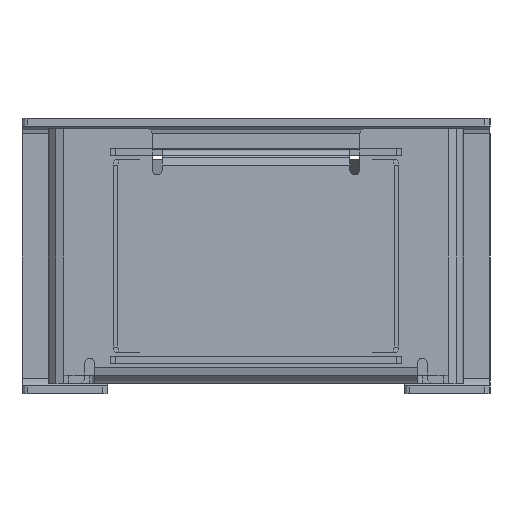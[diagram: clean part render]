
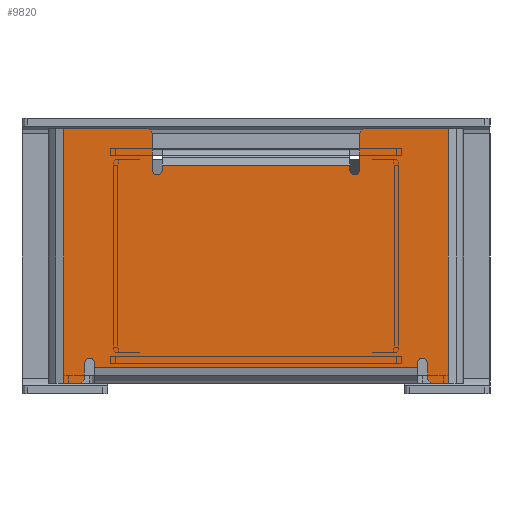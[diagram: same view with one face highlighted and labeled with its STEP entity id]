
A CAD part, front view. The second image highlights one B-rep face of the part: STEP entity #9820.
In plain terms, the highlighted planar face has unit normal (0, -1, 0).
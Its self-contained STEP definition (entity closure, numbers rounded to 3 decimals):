
#382=CIRCLE('',#10504,1.);
#391=CIRCLE('',#10516,1.);
#408=CIRCLE('',#10549,1.);
#409=CIRCLE('',#10552,1.);
#410=CIRCLE('',#10555,1.);
#411=CIRCLE('',#10558,1.);
#414=CIRCLE('',#10565,1.);
#415=CIRCLE('',#10568,1.);
#832=FACE_OUTER_BOUND('',#1420,.T.);
#1420=EDGE_LOOP('',(#6868,#6869,#6870,#6871,#6872,#6873,#6874,#6875,#6876,
#6877,#6878,#6879,#6880,#6881,#6882,#6883,#6884,#6885,#6886,#6887,#6888,
#6889,#6890,#6891));
#2110=LINE('',#14811,#3084);
#2129=LINE('',#14865,#3103);
#2169=LINE('',#14983,#3143);
#2173=LINE('',#14993,#3147);
#2177=LINE('',#15003,#3151);
#2184=LINE('',#15025,#3158);
#2186=LINE('',#15029,#3160);
#2187=LINE('',#15030,#3161);
#2188=LINE('',#15032,#3162);
#2189=LINE('',#15036,#3163);
#2190=LINE('',#15038,#3164);
#2191=LINE('',#15039,#3165);
#2192=LINE('',#15041,#3166);
#2193=LINE('',#15042,#3167);
#2194=LINE('',#15043,#3168);
#2195=LINE('',#15044,#3169);
#3084=VECTOR('',#11989,10.);
#3103=VECTOR('',#12030,10.);
#3143=VECTOR('',#12136,10.);
#3147=VECTOR('',#12146,10.);
#3151=VECTOR('',#12156,10.);
#3158=VECTOR('',#12183,10.);
#3160=VECTOR('',#12187,10.);
#3161=VECTOR('',#12188,10.);
#3162=VECTOR('',#12189,10.);
#3163=VECTOR('',#12192,10.);
#3164=VECTOR('',#12193,10.);
#3165=VECTOR('',#12194,10.);
#3166=VECTOR('',#12195,10.);
#3167=VECTOR('',#12196,10.);
#3168=VECTOR('',#12197,10.);
#3169=VECTOR('',#12198,10.);
#4003=VERTEX_POINT('',#14798);
#4004=VERTEX_POINT('',#14799);
#4008=VERTEX_POINT('',#14809);
#4030=VERTEX_POINT('',#14857);
#4031=VERTEX_POINT('',#14859);
#4032=VERTEX_POINT('',#14863);
#4075=VERTEX_POINT('',#14976);
#4076=VERTEX_POINT('',#14977);
#4077=VERTEX_POINT('',#14982);
#4078=VERTEX_POINT('',#14986);
#4079=VERTEX_POINT('',#14988);
#4080=VERTEX_POINT('',#14992);
#4081=VERTEX_POINT('',#14996);
#4082=VERTEX_POINT('',#15000);
#4083=VERTEX_POINT('',#15002);
#4084=VERTEX_POINT('',#15006);
#4087=VERTEX_POINT('',#15020);
#4088=VERTEX_POINT('',#15024);
#4089=VERTEX_POINT('',#15028);
#4090=VERTEX_POINT('',#15031);
#4091=VERTEX_POINT('',#15033);
#4092=VERTEX_POINT('',#15035);
#4093=VERTEX_POINT('',#15037);
#4094=VERTEX_POINT('',#15040);
#4983=EDGE_CURVE('',#4003,#4004,#382,.T.);
#4989=EDGE_CURVE('',#4003,#4008,#2110,.T.);
#5013=EDGE_CURVE('',#4030,#4031,#391,.T.);
#5016=EDGE_CURVE('',#4032,#4030,#2129,.T.);
#5070=EDGE_CURVE('',#4075,#4076,#408,.T.);
#5073=EDGE_CURVE('',#4077,#4076,#2169,.T.);
#5076=EDGE_CURVE('',#4078,#4079,#409,.T.);
#5078=EDGE_CURVE('',#4080,#4079,#2173,.T.);
#5080=EDGE_CURVE('',#4081,#4008,#410,.T.);
#5083=EDGE_CURVE('',#4083,#4082,#2177,.T.);
#5085=EDGE_CURVE('',#4084,#4082,#411,.T.);
#5092=EDGE_CURVE('',#4080,#4087,#414,.T.);
#5094=EDGE_CURVE('',#4087,#4088,#2184,.T.);
#5096=EDGE_CURVE('',#4078,#4089,#2186,.T.);
#5097=EDGE_CURVE('',#4089,#4077,#2187,.T.);
#5098=EDGE_CURVE('',#4075,#4090,#2188,.T.);
#5099=EDGE_CURVE('',#4091,#4090,#415,.T.);
#5100=EDGE_CURVE('',#4092,#4091,#2189,.T.);
#5101=EDGE_CURVE('',#4092,#4093,#2190,.T.);
#5102=EDGE_CURVE('',#4004,#4093,#2191,.T.);
#5103=EDGE_CURVE('',#4081,#4094,#2192,.T.);
#5104=EDGE_CURVE('',#4094,#4083,#2193,.T.);
#5105=EDGE_CURVE('',#4084,#4031,#2194,.T.);
#5106=EDGE_CURVE('',#4032,#4088,#2195,.T.);
#6868=ORIENTED_EDGE('',*,*,#5076,.F.);
#6869=ORIENTED_EDGE('',*,*,#5096,.T.);
#6870=ORIENTED_EDGE('',*,*,#5097,.T.);
#6871=ORIENTED_EDGE('',*,*,#5073,.T.);
#6872=ORIENTED_EDGE('',*,*,#5070,.F.);
#6873=ORIENTED_EDGE('',*,*,#5098,.T.);
#6874=ORIENTED_EDGE('',*,*,#5099,.F.);
#6875=ORIENTED_EDGE('',*,*,#5100,.F.);
#6876=ORIENTED_EDGE('',*,*,#5101,.T.);
#6877=ORIENTED_EDGE('',*,*,#5102,.F.);
#6878=ORIENTED_EDGE('',*,*,#4983,.F.);
#6879=ORIENTED_EDGE('',*,*,#4989,.T.);
#6880=ORIENTED_EDGE('',*,*,#5080,.F.);
#6881=ORIENTED_EDGE('',*,*,#5103,.T.);
#6882=ORIENTED_EDGE('',*,*,#5104,.T.);
#6883=ORIENTED_EDGE('',*,*,#5083,.T.);
#6884=ORIENTED_EDGE('',*,*,#5085,.F.);
#6885=ORIENTED_EDGE('',*,*,#5105,.T.);
#6886=ORIENTED_EDGE('',*,*,#5013,.F.);
#6887=ORIENTED_EDGE('',*,*,#5016,.F.);
#6888=ORIENTED_EDGE('',*,*,#5106,.T.);
#6889=ORIENTED_EDGE('',*,*,#5094,.F.);
#6890=ORIENTED_EDGE('',*,*,#5092,.F.);
#6891=ORIENTED_EDGE('',*,*,#5078,.T.);
#8783=PLANE('',#10567);
#9820=ADVANCED_FACE('',(#832),#8783,.T.);
#10504=AXIS2_PLACEMENT_3D('',#14800,#11979,#11980);
#10516=AXIS2_PLACEMENT_3D('',#14860,#12024,#12025);
#10549=AXIS2_PLACEMENT_3D('',#14978,#12130,#12131);
#10552=AXIS2_PLACEMENT_3D('',#14989,#12141,#12142);
#10555=AXIS2_PLACEMENT_3D('',#14997,#12150,#12151);
#10558=AXIS2_PLACEMENT_3D('',#15007,#12160,#12161);
#10565=AXIS2_PLACEMENT_3D('',#15021,#12178,#12179);
#10567=AXIS2_PLACEMENT_3D('',#15027,#12185,#12186);
#10568=AXIS2_PLACEMENT_3D('',#15034,#12190,#12191);
#11979=DIRECTION('center_axis',(0.,1.,0.));
#11980=DIRECTION('ref_axis',(-0.707,0.,0.707));
#11989=DIRECTION('',(0.,0.,-1.));
#12024=DIRECTION('center_axis',(0.,1.,0.));
#12025=DIRECTION('ref_axis',(0.707,0.,0.707));
#12030=DIRECTION('',(1.,0.,0.));
#12130=DIRECTION('center_axis',(0.,-1.,0.));
#12131=DIRECTION('ref_axis',(0.707,0.,0.707));
#12136=DIRECTION('',(0.,0.,1.));
#12141=DIRECTION('center_axis',(0.,-1.,0.));
#12142=DIRECTION('ref_axis',(0.707,0.,0.707));
#12146=DIRECTION('',(0.,0.,1.));
#12150=DIRECTION('center_axis',(0.,-1.,0.));
#12151=DIRECTION('ref_axis',(-0.707,0.,-0.707));
#12156=DIRECTION('',(0.,0.,-1.));
#12160=DIRECTION('center_axis',(0.,-1.,0.));
#12161=DIRECTION('ref_axis',(-0.707,0.,-0.707));
#12178=DIRECTION('center_axis',(0.,1.,0.));
#12179=DIRECTION('ref_axis',(0.707,0.,-0.707));
#12183=DIRECTION('',(-1.,0.,0.));
#12185=DIRECTION('center_axis',(0.,-1.,0.));
#12186=DIRECTION('ref_axis',(0.,0.,
1.));
#12187=DIRECTION('',(0.,0.,-1.));
#12188=DIRECTION('',(1.,0.,0.));
#12189=DIRECTION('',(0.,0.,-1.));
#12190=DIRECTION('center_axis',(0.,1.,0.));
#12191=DIRECTION('ref_axis',(-0.707,0.,-0.707));
#12192=DIRECTION('',(-1.,0.,0.));
#12193=DIRECTION('',(0.,0.,1.));
#12194=DIRECTION('',(1.,0.,0.));
#12195=DIRECTION('',(0.,0.,1.));
#12196=DIRECTION('',(-1.,0.,0.));
#12197=DIRECTION('',(0.,0.,1.));
#12198=DIRECTION('',(0.,0.,-1.));
#14798=CARTESIAN_POINT('',(20.,-1.5,23.5));
#14799=CARTESIAN_POINT('',(21.,-1.5,24.5));
#14800=CARTESIAN_POINT('Origin',(21.,-1.5,23.5));
#14809=CARTESIAN_POINT('',(20.,-1.5,16.5));
#14811=CARTESIAN_POINT('',(20.,-1.5,12.25));
#14857=CARTESIAN_POINT('',(-21.,-1.5,24.5));
#14859=CARTESIAN_POINT('',(-20.,-1.5,23.5));
#14860=CARTESIAN_POINT('Origin',(-21.,-1.5,23.5));
#14863=CARTESIAN_POINT('',(-37.,-1.5,24.5));
#14865=CARTESIAN_POINT('',(40.,-1.5,24.5));
#14976=CARTESIAN_POINT('',(33.,-1.5,-20.5));
#14977=CARTESIAN_POINT('',(31.,-1.5,-20.5));
#14978=CARTESIAN_POINT('Origin',(32.,-1.5,-20.5));
#14982=CARTESIAN_POINT('',(31.,-1.5,-21.5));
#14983=CARTESIAN_POINT('',(31.,-1.5,-12.25));
#14986=CARTESIAN_POINT('',(-31.,-1.5,-20.5));
#14988=CARTESIAN_POINT('',(-33.,-1.5,-20.5));
#14989=CARTESIAN_POINT('Origin',(-32.,-1.5,-20.5));
#14992=CARTESIAN_POINT('',(-33.,-1.5,-23.5));
#14993=CARTESIAN_POINT('',(-33.,-1.5,-12.25));
#14996=CARTESIAN_POINT('',(18.,-1.5,16.5));
#14997=CARTESIAN_POINT('Origin',(19.,-1.5,16.5));
#15000=CARTESIAN_POINT('',(-18.,-1.5,16.5));
#15002=CARTESIAN_POINT('',(-18.,-1.5,17.5));
#15003=CARTESIAN_POINT('',(-18.,-1.5,10.25));
#15006=CARTESIAN_POINT('',(-20.,-1.5,16.5));
#15007=CARTESIAN_POINT('Origin',(-19.,-1.5,16.5));
#15020=CARTESIAN_POINT('',(-34.,-1.5,-24.5));
#15021=CARTESIAN_POINT('Origin',(-34.,-1.5,-23.5));
#15024=CARTESIAN_POINT('',(-37.,-1.5,-24.5));
#15025=CARTESIAN_POINT('',(-40.,-1.5,-24.5));
#15027=CARTESIAN_POINT('Origin',(0.,-1.5,0.));
#15028=CARTESIAN_POINT('',(-31.,-1.5,-21.5));
#15029=CARTESIAN_POINT('',(-31.,-1.5,-9.75));
#15030=CARTESIAN_POINT('',(-15.5,-1.5,-21.5));
#15031=CARTESIAN_POINT('',(33.,-1.5,-23.5));
#15032=CARTESIAN_POINT('',(33.,-1.5,-9.75));
#15033=CARTESIAN_POINT('',(34.,-1.5,-24.5));
#15034=CARTESIAN_POINT('Origin',(34.,-1.5,-23.5));
#15035=CARTESIAN_POINT('',(37.,-1.5,-24.5));
#15036=CARTESIAN_POINT('',(-40.,-1.5,-24.5));
#15037=CARTESIAN_POINT('',(37.,-1.5,24.5));
#15038=CARTESIAN_POINT('',(37.,-1.5,-12.25));
#15039=CARTESIAN_POINT('',(40.,-1.5,24.5));
#15040=CARTESIAN_POINT('',(18.,-1.5,17.5));
#15041=CARTESIAN_POINT('',(18.,-1.5,7.75));
#15042=CARTESIAN_POINT('',(9.,-1.5,17.5));
#15043=CARTESIAN_POINT('',(-20.,-1.5,7.75));
#15044=CARTESIAN_POINT('',(-37.,-1.5,12.25));
